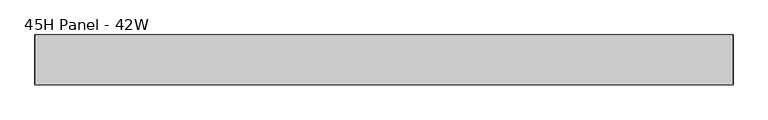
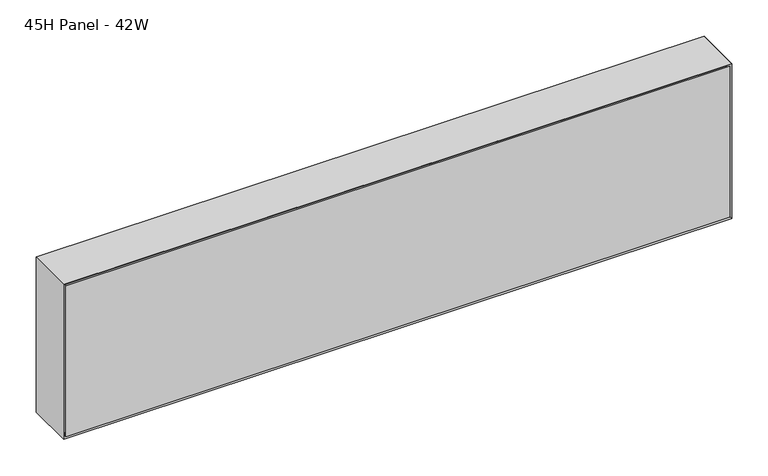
"""IFC4 building model written with IfcOpenShell, lengths in millimetres: furniture geometry, Steelcase - Montage - Frame - 10H - Enhanced Standard - Single Stack-On : 45H Panel - 42W."""

from ifc_helpers import new_model, si_unit, frame, origin, place, context, project, spatial, polyline, outline, extrude, faceted_brep, source, transform, mapped, element, save


def furniture_45h_panel_42w_2c3968e3(model_context):
    return source(origin(), model_context, "Body", "SolidModel", [
        faceted_brep([(1057.2750027, 31.7500194, 1389.0752415), (9.5250028, 31.7500194, 1389.0752415), (9.5250028, 31.7500194, 1146.175), (1057.2750027, 31.7500194, 1146.175), (1063.625, 38.1000194, 1395.4252415), (1063.625, 38.1000194, 1139.825), (3.175, 38.1000194, 1139.825), (3.175, 38.1000194, 1395.4252415)], [[[0, 1, 2, 3]], [[4, 5, 6, 7]], [[4, 0, 3, 5]], [[5, 3, 2, 6]], [[6, 2, 1, 7]], [[7, 1, 0, 4]]]),
        faceted_brep([(1057.2750027, -31.7500194, 1389.0752415), (1057.2750027, -31.7500194, 1146.175), (9.5250028, -31.7500194, 1146.175), (9.5250028, -31.7500194, 1389.0752415), (1063.625, -38.1000194, 1395.4252415), (3.175, -38.1000194, 1395.4252415), (3.175, -38.1000194, 1139.825), (1063.625, -38.1000194, 1139.825)], [[[0, 1, 2, 3]], [[4, 5, 6, 7]], [[4, 7, 1, 0]], [[7, 6, 2, 1]], [[6, 5, 3, 2]], [[5, 4, 0, 3]]]),
        faceted_brep([(1066.8, -38.1000015, 1136.65), (1066.8, 38.1000015, 1136.65), (1066.8, 38.1000015, 1398.6002415), (1066.8, -38.1000106, 1398.6002414), (0.0, 38.1000015, 1136.65), (0.0, -38.1000015, 1136.65), (0.0, -38.1000015, 1398.6002415), (0.0, 38.1000015, 1398.6002415), (6.3500484, 31.749953, 1143.0000484), (1060.4499879, 31.749953, 1143.0000484), (6.35, -31.749953, 1143.0000484), (1060.4499879, -31.749953, 1143.0000484), (6.3500169, 31.7499846, 1392.2502245), (6.3500012, -31.7500003, 1392.250193), (1060.4499879, -31.7499973, 1392.250193), (1060.4499879, 31.7499885, 1392.2502293)], [[[0, 1, 2, 3]], [[4, 5, 6, 7]], [[1, 0, 5, 4]], [[1, 4, 8, 9]], [[9, 8, 10, 11]], [[5, 0, 11, 10]], [[4, 7, 12, 8]], [[6, 5, 10, 13]], [[10, 8, 12, 13]], [[9, 11, 14, 15]], [[0, 3, 14, 11]], [[2, 1, 9, 15]], [[3, 2, 15, 14]], [[7, 6, 13, 12]]]),
        faceted_brep([(1066.8, -38.1000015, 1398.6002415), (0.0, -38.1000015, 1398.6002415), (6.3500484, -31.749953, 1392.250193), (1060.4499516, -31.749953, 1392.250193), (6.3500484, 31.749953, 1392.250193), (1060.4499516, 31.749953, 1392.250193), (0.0, 38.1000015, 1398.6002415), (1066.8, 38.1000015, 1398.6002415)], [[[0, 1, 2, 3]], [[3, 2, 4, 5]], [[6, 7, 5, 4]], [[1, 0, 7, 6]], [[2, 1, 6, 4]], [[0, 3, 5, 7]]]),
        extrude(outline(polyline([(1060.4499879, 31.7500016), (1060.4499879, -31.7499985), (6.35, -31.7499985), (6.35, 31.7500016), (1060.4499879, 31.7500016)])), frame((0.0, 0.0, 1142.9952145), z_axis=(0.0, 0.0, 1.0), x_axis=(1.0, 0.0, 0.0)), (0.0, 0.0, 1.0), 249.2549785),
    ])


if __name__ == "__main__":
    model = new_model("IFC4")
    model_context = context("Model", 3, world=origin())
    ifc_project = project(units=[si_unit("LENGTHUNIT", "METRE", prefix="MILLI")], contexts=[model_context])
    site = spatial("IfcSite", under=ifc_project)
    building = spatial("IfcBuilding", under=site)
    placement = place(None, origin())
    furniture_45h_panel_42w_shape = furniture_45h_panel_42w_2c3968e3(model_context)
    element("IfcFurniture", 1, ObjectType="Steelcase - Montage - Frame - 10H - Enhanced Standard - Single Stack-On : 45H Panel - 42W", at=placement, inside=building, context=model_context, shape_type="MappedRepresentation", body=[
        mapped(furniture_45h_panel_42w_shape, transform((0.0, 0.0, 0.0), x_axis=(1.0, 0.0, 0.0), y_axis=(0.0, 1.0, 0.0), z_axis=(0.0, 0.0, 1.0))),
    ])
    save(model, "model.ifc")
